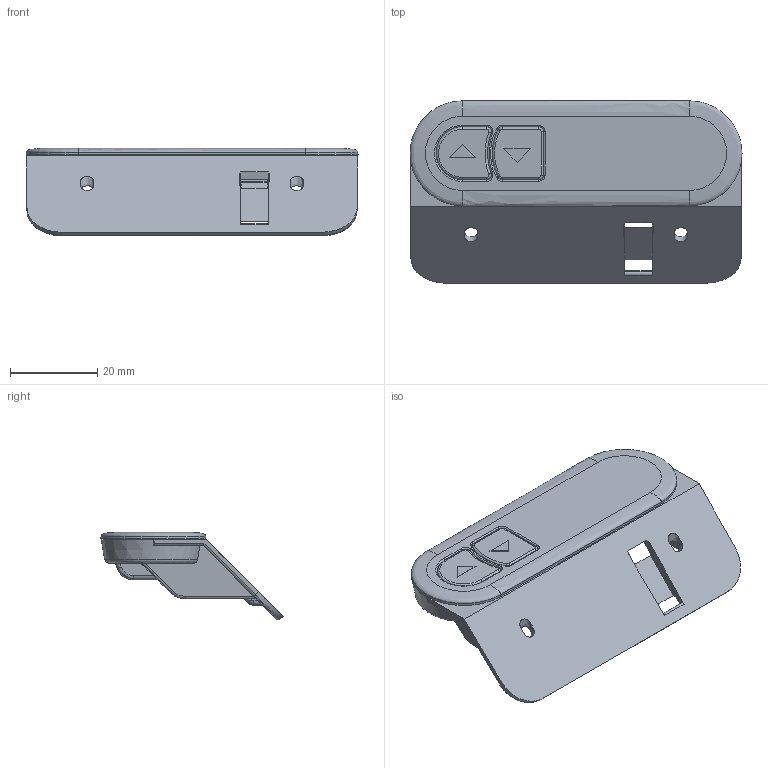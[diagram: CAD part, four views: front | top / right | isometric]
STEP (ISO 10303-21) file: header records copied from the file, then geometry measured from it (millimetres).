
FILE_DESCRIPTION((''),'2;1');
FILE_NAME('ENVELOP_LD2LC','2020-10-15T08:36:53',('TEJ'),(''),'CREO PARAMETRIC BY PTC INC, 2020154','CREO PARAMETRIC BY PTC INC, 2020154','');
FILE_SCHEMA(('CONFIG_CONTROL_DESIGN'));
Length unit declared in the file: millimetre
Products named in the file (1): ENVELOP_LD2LC
Bounding box: 76 x 41.68 x 20.08 mm (x, y, z)
Volume: 14307 mm3; surface area: 12229.6 mm2
Topology: 1 solids, 2 shells, 352 faces, 925 edges, 589 vertices
Faces by surface type: plane 195, cylinder 85, bspline 26, torus 22, cone 18, extrusion 4, revolution 2
Entity records: 12577 total; most frequent: CARTESIAN_POINT 4109, ORIENTED_EDGE 1850, DIRECTION 1598, EDGE_CURVE 925, VECTOR 602, LINE 598, VERTEX_POINT 589, AXIS2_PLACEMENT_3D 497
